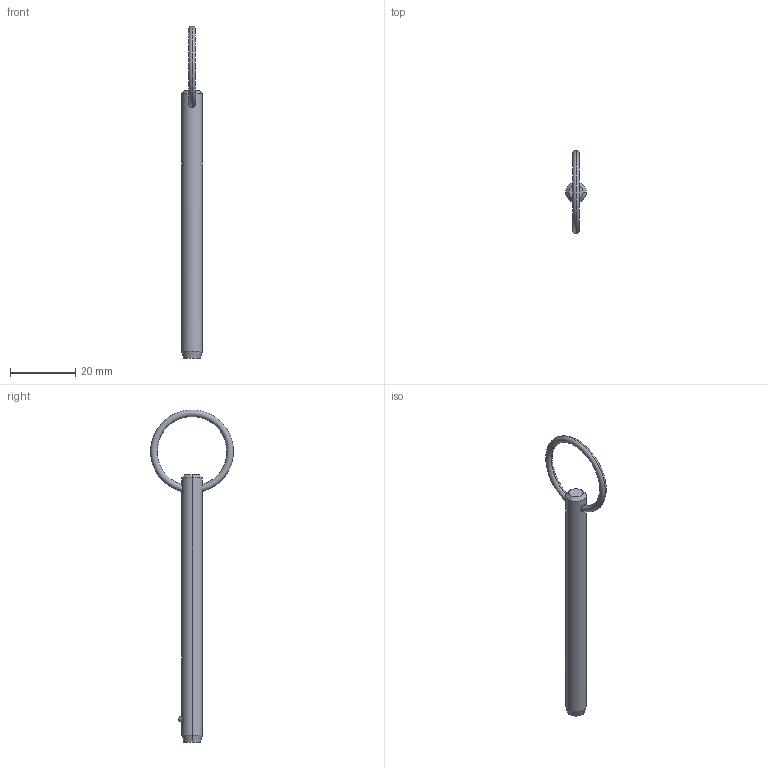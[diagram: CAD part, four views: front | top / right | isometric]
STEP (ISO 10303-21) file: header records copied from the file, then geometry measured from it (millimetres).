
FILE_DESCRIPTION (( 'STEP AP203' ), '1' );
FILE_NAME ('P1250.025-270.step', '2019-07-29T19:43:45', ( '' ), ( '' ), 'SwSTEP 2.0', 'SolidWorks 2017', '' );
FILE_SCHEMA (( 'CONFIG_CONTROL_DESIGN' ));
Length unit declared in the file: millimetre
Products named in the file (1): P1250.025-270
Bounding box: 6.35 x 25.38 x 101.92 mm (x, y, z)
Volume: 2793.7 mm3; surface area: 2095.2 mm2
Topology: 1 solids, 1 shells, 12 faces, 28 edges, 17 vertices
Faces by surface type: cone 4, torus 2, sphere 2, cylinder 2, plane 2
Entity records: 481 total; most frequent: CARTESIAN_POINT 148, DIRECTION 56, ORIENTED_EDGE 48, AXIS2_PLACEMENT_3D 25, EDGE_CURVE 24, VERTEX_POINT 15, EDGE_LOOP 15, ADVANCED_FACE 12
